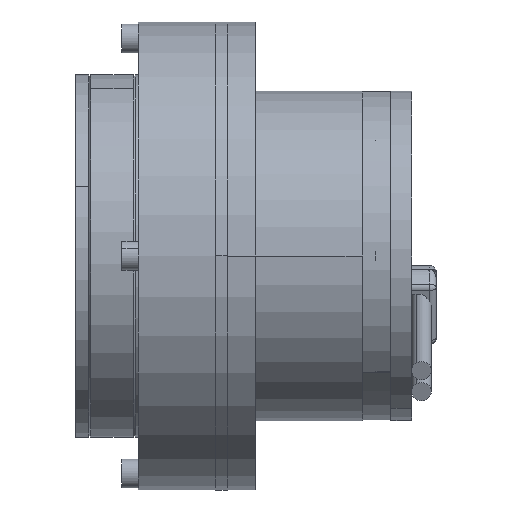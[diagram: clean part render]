
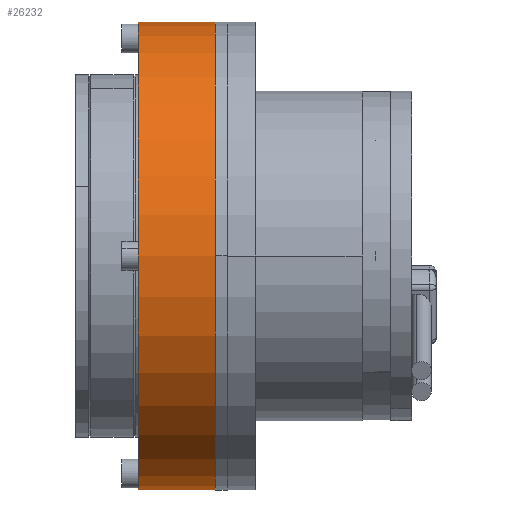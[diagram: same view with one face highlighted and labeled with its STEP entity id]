
A CAD part, left-side view. The second image highlights one B-rep face of the part: STEP entity #26232.
In plain terms, the highlighted cylindrical face has radius 71 mm (diameter 142 mm), a partial arc.
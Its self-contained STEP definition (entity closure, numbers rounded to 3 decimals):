
#150 = VERTEX_POINT ( 'NONE', #26093 ) ;
#202 = AXIS2_PLACEMENT_3D ( 'NONE', #22748, #20505, #18516 ) ;
#949 = EDGE_CURVE ( 'NONE', #2852, #14351, #15596, .T. ) ;
#1098 = CIRCLE ( 'NONE', #202, 71. ) ;
#1530 = ORIENTED_EDGE ( 'NONE', *, *, #949, .T. ) ;
#2852 = VERTEX_POINT ( 'NONE', #27292 ) ;
#3048 = DIRECTION ( 'NONE',  ( 0., -1., 0. ) ) ;
#3647 = EDGE_CURVE ( 'NONE', #2852, #11698, #23703, .T. ) ;
#5138 = DIRECTION ( 'NONE',  ( 0., 0., -1. ) ) ;
#5520 = ORIENTED_EDGE ( 'NONE', *, *, #3647, .F. ) ;
#7142 = CARTESIAN_POINT ( 'NONE',  ( 0., 23.4, -71. ) ) ;
#8625 = ORIENTED_EDGE ( 'NONE', *, *, #17533, .F. ) ;
#9978 = DIRECTION ( 'NONE',  ( 0., -1., 0. ) ) ;
#10265 = AXIS2_PLACEMENT_3D ( 'NONE', #26820, #3048, #5138 ) ;
#11698 = VERTEX_POINT ( 'NONE', #16602 ) ;
#11737 = FACE_OUTER_BOUND ( 'NONE', #17997, .T. ) ;
#13004 = ORIENTED_EDGE ( 'NONE', *, *, #15497, .T. ) ;
#14351 = VERTEX_POINT ( 'NONE', #24085 ) ;
#15456 = DIRECTION ( 'NONE',  ( 0., -1., 0. ) ) ;
#15459 = VECTOR ( 'NONE', #15456, 1000. ) ;
#15497 = EDGE_CURVE ( 'NONE', #14351, #150, #1098, .T. ) ;
#15596 = LINE ( 'NONE', #7142, #15459 ) ;
#16470 = CARTESIAN_POINT ( 'NONE',  ( 0., 23.4, 71. ) ) ;
#16602 = CARTESIAN_POINT ( 'NONE',  ( 0., 23.4, 71. ) ) ;
#17533 = EDGE_CURVE ( 'NONE', #11698, #150, #27310, .T. ) ;
#17612 = DIRECTION ( 'NONE',  ( 0., 1., 0. ) ) ;
#17997 = EDGE_LOOP ( 'NONE', ( #8625, #5520, #1530, #13004 ) ) ;
#18516 = DIRECTION ( 'NONE',  ( 0., 0., 1. ) ) ;
#18749 = AXIS2_PLACEMENT_3D ( 'NONE', #19610, #17612, #23952 ) ;
#19610 = CARTESIAN_POINT ( 'NONE',  ( 0., 23.4, 0. ) ) ;
#20505 = DIRECTION ( 'NONE',  ( 0., 1., 0. ) ) ;
#20535 = VECTOR ( 'NONE', #9978, 1000. ) ;
#22748 = CARTESIAN_POINT ( 'NONE',  ( 0., 0., 0. ) ) ;
#23703 = CIRCLE ( 'NONE', #18749, 71. ) ;
#23952 = DIRECTION ( 'NONE',  ( 0., 0., 1. ) ) ;
#24085 = CARTESIAN_POINT ( 'NONE',  ( 0., 0., -71. ) ) ;
#24576 = CYLINDRICAL_SURFACE ( 'NONE', #10265, 71. ) ;
#26093 = CARTESIAN_POINT ( 'NONE',  ( 0., 0., 71. ) ) ;
#26232 = ADVANCED_FACE ( 'NONE', ( #11737 ), #24576, .T. ) ;
#26820 = CARTESIAN_POINT ( 'NONE',  ( 0., 23.4, 0. ) ) ;
#27292 = CARTESIAN_POINT ( 'NONE',  ( 0., 23.4, -71. ) ) ;
#27310 = LINE ( 'NONE', #16470, #20535 ) ;
